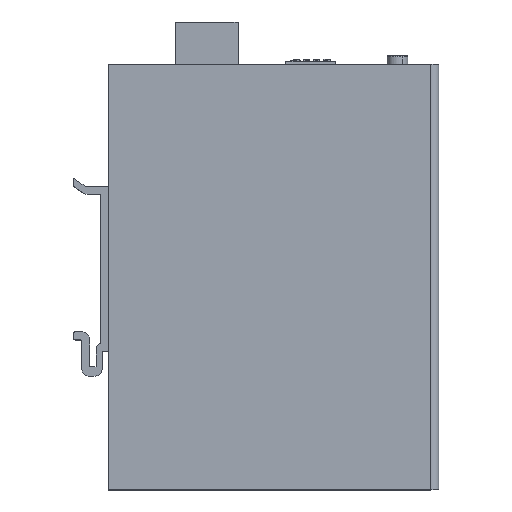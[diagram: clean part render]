
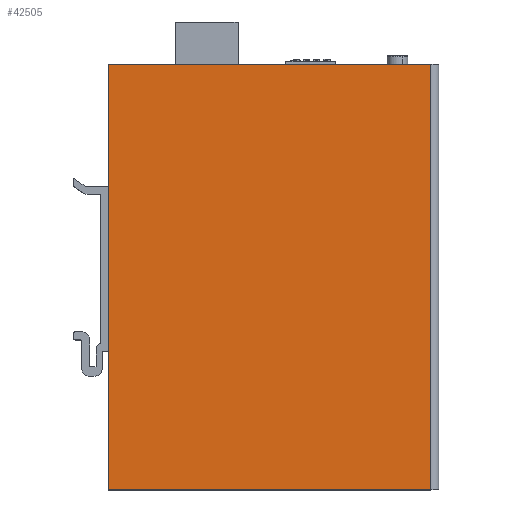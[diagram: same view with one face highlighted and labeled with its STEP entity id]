
A CAD part, top view. The second image highlights one B-rep face of the part: STEP entity #42505.
In plain terms, the highlighted planar face has unit normal (0, 0, 1).
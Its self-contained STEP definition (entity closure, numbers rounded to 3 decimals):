
#7665=DIRECTION('',(-1.,0.,0.));
#7666=VECTOR('',#7665,78.);
#7667=CARTESIAN_POINT('',(47.369,17.272,116.531));
#7668=LINE('',#7667,#7666);
#7691=DIRECTION('',(-1.,0.,0.));
#7692=VECTOR('',#7691,78.);
#7693=CARTESIAN_POINT('',(47.369,120.272,116.531));
#7694=LINE('',#7693,#7692);
#7745=DIRECTION('',(0.,1.,0.));
#7746=VECTOR('',#7745,103.);
#7747=CARTESIAN_POINT('',(-30.631,17.272,116.531));
#7748=LINE('',#7747,#7746);
#9613=DIRECTION('',(0.,-1.,0.));
#9614=VECTOR('',#9613,103.);
#9615=CARTESIAN_POINT('',(47.369,120.272,116.531));
#9616=LINE('',#9615,#9614);
#29046=CARTESIAN_POINT('',(47.369,120.272,116.531));
#29048=VERTEX_POINT('',#29046);
#29924=CARTESIAN_POINT('',(47.369,17.272,116.531));
#29925=CARTESIAN_POINT('',(-30.631,17.272,
116.531));
#29926=VERTEX_POINT('',#29924);
#29927=VERTEX_POINT('',#29925);
#30457=CARTESIAN_POINT('',(-30.631,120.272,
116.531));
#30458=VERTEX_POINT('',#30457);
#42491=CARTESIAN_POINT('',(-30.631,123.772,
116.531));
#42492=DIRECTION('',(0.,0.,-1.));
#42493=DIRECTION('',(-1.,0.,0.));
#42494=AXIS2_PLACEMENT_3D('',#42491,#42492,#42493);
#42495=PLANE('',#42494);
#42497=ORIENTED_EDGE('',*,*,#42496,.F.);
#42499=ORIENTED_EDGE('',*,*,#42498,.T.);
#42500=ORIENTED_EDGE('',*,*,#42477,.T.);
#42502=ORIENTED_EDGE('',*,*,#42501,.T.);
#42503=EDGE_LOOP('',(#42497,#42499,#42500,#42502));
#42504=FACE_OUTER_BOUND('',#42503,.F.);
#42505=ADVANCED_FACE('',(#42504),#42495,.F.);
#42477=EDGE_CURVE('',#29926,#29927,#7668,.T.);
#42496=EDGE_CURVE('',#29048,#30458,#7694,.T.);
#42498=EDGE_CURVE('',#29048,#29926,#9616,.T.);
#42501=EDGE_CURVE('',#29927,#30458,#7748,.T.);
